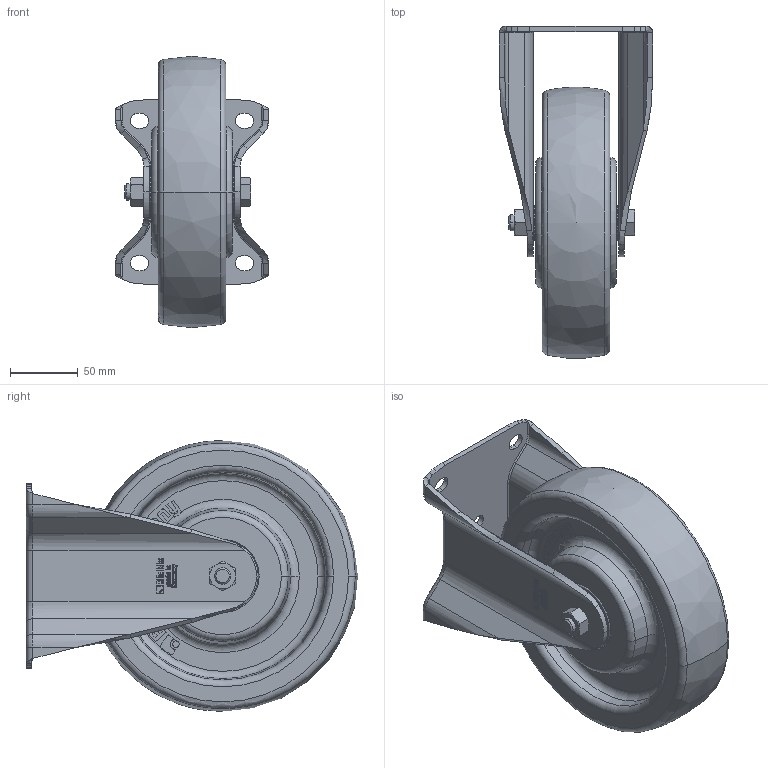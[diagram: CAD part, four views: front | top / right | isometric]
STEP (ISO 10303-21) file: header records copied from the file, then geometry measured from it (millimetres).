
FILE_DESCRIPTION (( 'STEP AP214' ), '1' );
FILE_NAME ('BH-SPO_200K_007153-214.step', '2021-11-30T14:53:16', ( '' ), ( '' ), 'SwSTEP 2.0', 'SolidWorks 2018', '' );
FILE_SCHEMA (( 'AUTOMOTIVE_DESIGN' ));
Length unit declared in the file: millimetre
Products named in the file (5): SPO_200_20K_G16_3D; GH-BH_150-250_GH-BH-200x60-03_20x60; BH-SPO_200K_007153-214; SPO_3D_G16_SPO_200_20K_006023; GH-BH-200x60-03_20x60_G16_3D
Assembly tree (4 placements, depth 3):
  BH-SPO_200K_007153-214
    GH-BH_150-250_GH-BH-200x60-03_20x60
      GH-BH-200x60-03_20x60_G16_3D
    SPO_3D_G16_SPO_200_20K_006023
      SPO_200_20K_G16_3D
Bounding box: 113 x 244.75 x 200 mm (x, y, z)
Volume: 1395412 mm3; surface area: 226368.4 mm2
Topology: 2 solids, 5 shells, 1689 faces, 4427 edges, 2884 vertices
Faces by surface type: plane 808, bspline 642, torus 106, cylinder 84, cone 47, sphere 2
Entity records: 70140 total; most frequent: CARTESIAN_POINT 20371, ORIENTED_EDGE 8844, DIRECTION 5635, EDGE_CURVE 4422, VERTEX_POINT 2881, LINE 2665, VECTOR 2665, EDGE_LOOP 1847
